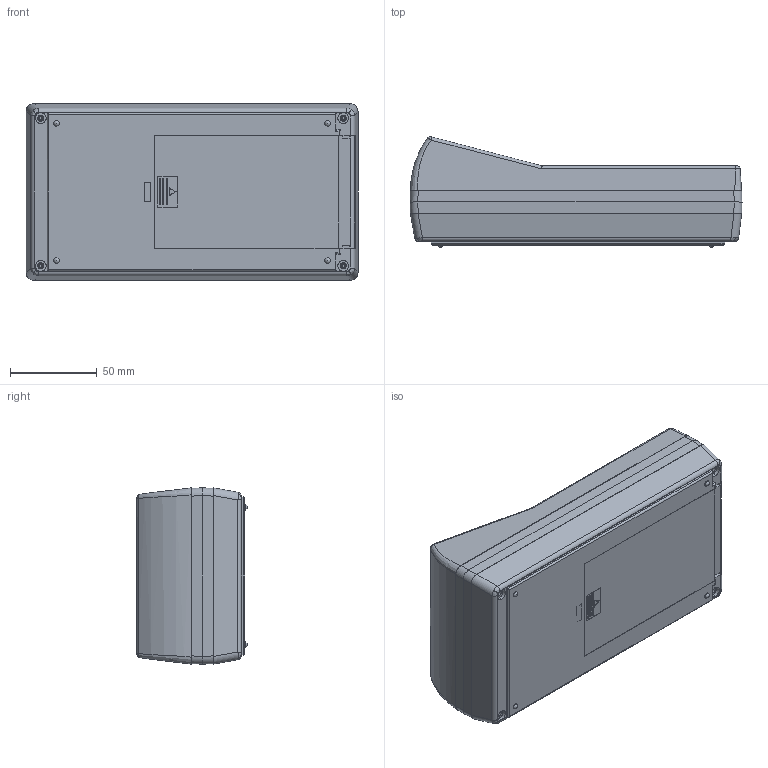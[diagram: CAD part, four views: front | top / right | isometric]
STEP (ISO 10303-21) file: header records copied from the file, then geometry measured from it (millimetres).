
FILE_DESCRIPTION (( 'STEP AP214' ), '1' );
FILE_NAME ('90-52-4C-E-R.STEP', '2019-12-01T16:00:02', ( 'Rudy' ), ( '' ), 'SwSTEP 2.0', 'SolidWorks 2014', '' );
FILE_SCHEMA (( 'AUTOMOTIVE_DESIGN' ));
Length unit declared in the file: millimetre
Products named in the file (6): 4C door; 100-06 EXPANDER; 100 bessel; 100 Top Angled LCD; 100-02 BOT-4C; 90-52-4C-E-R
Assembly tree (5 placements, depth 2):
  90-52-4C-E-R
    100-02 BOT-4C
    100 Top Angled LCD
    100 bessel
    100-06 EXPANDER
    4C door
Bounding box: 191 x 63.49 x 101.4 mm (x, y, z)
Volume: 161832.8 mm3; surface area: 177648.1 mm2
Topology: 5 solids, 5 shells, 790 faces, 2118 edges, 1363 vertices
Faces by surface type: plane 512, cylinder 202, cone 40, bspline 20, torus 12, sphere 4
Entity records: 25838 total; most frequent: CARTESIAN_POINT 6243, ORIENTED_EDGE 4208, DIRECTION 3770, EDGE_CURVE 2104, LINE 1528, VECTOR 1528, VERTEX_POINT 1355, AXIS2_PLACEMENT_3D 1121
